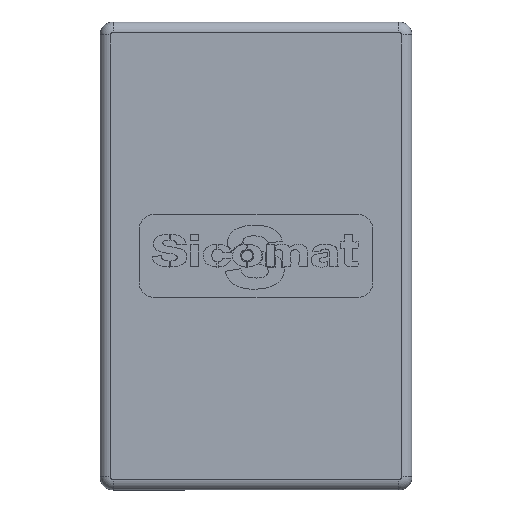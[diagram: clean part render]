
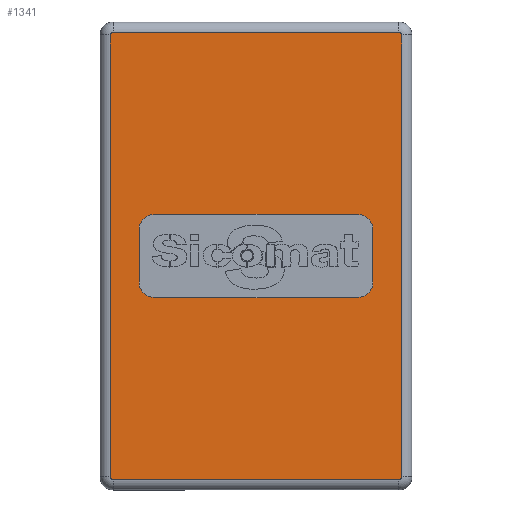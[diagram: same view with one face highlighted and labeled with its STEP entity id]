
A CAD part, top view. The second image highlights one B-rep face of the part: STEP entity #1341.
In plain terms, the highlighted planar face has unit normal (0, 0, 1).
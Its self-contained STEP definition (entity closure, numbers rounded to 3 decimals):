
#149 = EDGE_LOOP ( 'NONE', ( #4632, #4652, #4776, #4839, #4620, #4851, #4653, #4829 ) ) ;
#222 = EDGE_LOOP ( 'NONE', ( #4642, #4817, #4647, #4862, #4605, #4791, #4826, #4783 ) ) ;
#428 = FACE_OUTER_BOUND ( 'NONE', #222, .T. ) ;
#435 = FACE_BOUND ( 'NONE', #149, .T. ) ;
#860 = CIRCLE ( 'NONE', #6147, 3. ) ;
#861 = LINE ( 'NONE', #3559, #864 ) ;
#863 = LINE ( 'NONE', #3556, #867 ) ;
#864 = VECTOR ( 'NONE', #3557, 1000. ) ;
#865 = CIRCLE ( 'NONE', #6163, 3. ) ;
#866 = CIRCLE ( 'NONE', #3200, 3. ) ;
#867 = VECTOR ( 'NONE', #3558, 1000. ) ;
#868 = LINE ( 'NONE', #3480, #870 ) ;
#869 = CIRCLE ( 'NONE', #3201, 3. ) ;
#870 = VECTOR ( 'NONE', #3667, 1000. ) ;
#871 = LINE ( 'NONE', #3553, #873 ) ;
#872 = CIRCLE ( 'NONE', #3202, 0.5 ) ;
#873 = VECTOR ( 'NONE', #3554, 1000. ) ;
#874 = LINE ( 'NONE', #3549, #876 ) ;
#876 = VECTOR ( 'NONE', #3324, 1000. ) ;
#877 = LINE ( 'NONE', #3544, #879 ) ;
#878 = CIRCLE ( 'NONE', #3203, 0.5 ) ;
#879 = VECTOR ( 'NONE', #3548, 1000. ) ;
#880 = LINE ( 'NONE', #3543, #882 ) ;
#881 = CIRCLE ( 'NONE', #3199, 0.5 ) ;
#882 = VECTOR ( 'NONE', #3542, 1000. ) ;
#883 = LINE ( 'NONE', #3538, #885 ) ;
#884 = CIRCLE ( 'NONE', #3196, 0.5 ) ;
#885 = VECTOR ( 'NONE', #3537, 1000. ) ;
#1341 = ADVANCED_FACE ( 'NONE', ( #435, #428 ), #2839, .T. ) ;
#1433 = AXIS2_PLACEMENT_3D ( 'NONE', #2832, #2778, #2777 ) ;
#1865 = EDGE_CURVE ( 'NONE', #4901, #4911, #861, .T. ) ;
#1866 = EDGE_CURVE ( 'NONE', #4901, #4946, #860, .T. ) ;
#1867 = EDGE_CURVE ( 'NONE', #4896, #4946, #863, .T. ) ;
#1868 = EDGE_CURVE ( 'NONE', #4896, #4944, #865, .T. ) ;
#1869 = EDGE_CURVE ( 'NONE', #4914, #4944, #868, .T. ) ;
#1870 = EDGE_CURVE ( 'NONE', #4914, #4897, #866, .T. ) ;
#1871 = EDGE_CURVE ( 'NONE', #4950, #4897, #871, .T. ) ;
#1872 = EDGE_CURVE ( 'NONE', #4950, #4911, #869, .T. ) ;
#1873 = EDGE_CURVE ( 'NONE', #4894, #4937, #874, .T. ) ;
#1874 = EDGE_CURVE ( 'NONE', #4937, #4936, #872, .T. ) ;
#1875 = EDGE_CURVE ( 'NONE', #4936, #5006, #877, .T. ) ;
#1876 = EDGE_CURVE ( 'NONE', #5006, #5003, #878, .T. ) ;
#1877 = EDGE_CURVE ( 'NONE', #5003, #4967, #880, .T. ) ;
#1878 = EDGE_CURVE ( 'NONE', #4967, #4969, #881, .T. ) ;
#1879 = EDGE_CURVE ( 'NONE', #4969, #5005, #883, .T. ) ;
#1880 = EDGE_CURVE ( 'NONE', #5005, #4894, #884, .T. ) ;
#2777 = DIRECTION ( 'NONE',  ( 1., 0., 0. ) ) ;
#2778 = DIRECTION ( 'NONE',  ( 0., 0., 1. ) ) ;
#2832 = CARTESIAN_POINT ( 'NONE',  ( 0., 0., 2.5 ) ) ;
#2839 = PLANE ( 'NONE',  #1433 ) ;
#3196 = AXIS2_PLACEMENT_3D ( 'NONE', #3530, #3529, #3528 ) ;
#3199 = AXIS2_PLACEMENT_3D ( 'NONE', #3533, #3532, #3531 ) ;
#3200 = AXIS2_PLACEMENT_3D ( 'NONE', #3552, #3551, #3550 ) ;
#3201 = AXIS2_PLACEMENT_3D ( 'NONE', #3547, #3546, #3545 ) ;
#3202 = AXIS2_PLACEMENT_3D ( 'NONE', #3541, #3540, #3539 ) ;
#3203 = AXIS2_PLACEMENT_3D ( 'NONE', #3536, #3535, #3534 ) ;
#3324 = DIRECTION ( 'NONE',  ( 0., -1., 0. ) ) ;
#3462 = DIRECTION ( 'NONE',  ( 1., 0., 0. ) ) ;
#3463 = DIRECTION ( 'NONE',  ( 0., 0., -1. ) ) ;
#3464 = CARTESIAN_POINT ( 'NONE',  ( 19.5, 5., 2.5 ) ) ;
#3480 = CARTESIAN_POINT ( 'NONE',  ( 22.5, -8., 2.5 ) ) ;
#3488 = DIRECTION ( 'NONE',  ( 1., 0., 0. ) ) ;
#3491 = DIRECTION ( 'NONE',  ( 0., 0., -1. ) ) ;
#3528 = DIRECTION ( 'NONE',  ( 1., 0., 0. ) ) ;
#3529 = DIRECTION ( 'NONE',  ( 0., 0., 1. ) ) ;
#3530 = CARTESIAN_POINT ( 'NONE',  ( -27.5, 42.5, 2.5 ) ) ;
#3531 = DIRECTION ( 'NONE',  ( 1., 0., 0. ) ) ;
#3532 = DIRECTION ( 'NONE',  ( 0., 0., 1. ) ) ;
#3533 = CARTESIAN_POINT ( 'NONE',  ( 27.5, 42.5, 2.5 ) ) ;
#3534 = DIRECTION ( 'NONE',  ( 1., 0., 0. ) ) ;
#3535 = DIRECTION ( 'NONE',  ( 0., 0., 1. ) ) ;
#3536 = CARTESIAN_POINT ( 'NONE',  ( 27.5, -42.5, 2.5 ) ) ;
#3537 = DIRECTION ( 'NONE',  ( -1., 0., 0. ) ) ;
#3538 = CARTESIAN_POINT ( 'NONE',  ( -27.5, 43., 2.5 ) ) ;
#3539 = DIRECTION ( 'NONE',  ( 1., 0., 0. ) ) ;
#3540 = DIRECTION ( 'NONE',  ( 0., 0., 1. ) ) ;
#3541 = CARTESIAN_POINT ( 'NONE',  ( -27.5, -42.5, 2.5 ) ) ;
#3542 = DIRECTION ( 'NONE',  ( 0., 1., 0. ) ) ;
#3543 = CARTESIAN_POINT ( 'NONE',  ( 28., 42.5, 2.5 ) ) ;
#3544 = CARTESIAN_POINT ( 'NONE',  ( 27.5, -43., 2.5 ) ) ;
#3545 = DIRECTION ( 'NONE',  ( 1., 0., 0. ) ) ;
#3546 = DIRECTION ( 'NONE',  ( 0., 0., -1. ) ) ;
#3547 = CARTESIAN_POINT ( 'NONE',  ( -19.5, -5., 2.5 ) ) ;
#3548 = DIRECTION ( 'NONE',  ( 1., 0., 0. ) ) ;
#3549 = CARTESIAN_POINT ( 'NONE',  ( -28., -42.5, 2.5 ) ) ;
#3550 = DIRECTION ( 'NONE',  ( 1., 0., 0. ) ) ;
#3551 = DIRECTION ( 'NONE',  ( 0., 0., -1. ) ) ;
#3552 = CARTESIAN_POINT ( 'NONE',  ( 19.5, -5., 2.5 ) ) ;
#3553 = CARTESIAN_POINT ( 'NONE',  ( 22.5, -8., 2.5 ) ) ;
#3554 = DIRECTION ( 'NONE',  ( 1., 0., 0. ) ) ;
#3555 = CARTESIAN_POINT ( 'NONE',  ( -19.5, 5., 2.5 ) ) ;
#3556 = CARTESIAN_POINT ( 'NONE',  ( 22.5, 8., 2.5 ) ) ;
#3557 = DIRECTION ( 'NONE',  ( 0., -1., 0. ) ) ;
#3558 = DIRECTION ( 'NONE',  ( -1., 0., 0. ) ) ;
#3559 = CARTESIAN_POINT ( 'NONE',  ( -22.5, -8., 2.5 ) ) ;
#3667 = DIRECTION ( 'NONE',  ( 0., 1., 0. ) ) ;
#4605 = ORIENTED_EDGE ( 'NONE', *, *, #1877, .T. ) ;
#4620 = ORIENTED_EDGE ( 'NONE', *, *, #1869, .F. ) ;
#4632 = ORIENTED_EDGE ( 'NONE', *, *, #1865, .F. ) ;
#4642 = ORIENTED_EDGE ( 'NONE', *, *, #1873, .T. ) ;
#4647 = ORIENTED_EDGE ( 'NONE', *, *, #1875, .T. ) ;
#4652 = ORIENTED_EDGE ( 'NONE', *, *, #1866, .T. ) ;
#4653 = ORIENTED_EDGE ( 'NONE', *, *, #1871, .F. ) ;
#4776 = ORIENTED_EDGE ( 'NONE', *, *, #1867, .F. ) ;
#4783 = ORIENTED_EDGE ( 'NONE', *, *, #1880, .T. ) ;
#4791 = ORIENTED_EDGE ( 'NONE', *, *, #1878, .T. ) ;
#4817 = ORIENTED_EDGE ( 'NONE', *, *, #1874, .T. ) ;
#4826 = ORIENTED_EDGE ( 'NONE', *, *, #1879, .T. ) ;
#4829 = ORIENTED_EDGE ( 'NONE', *, *, #1872, .T. ) ;
#4839 = ORIENTED_EDGE ( 'NONE', *, *, #1868, .T. ) ;
#4851 = ORIENTED_EDGE ( 'NONE', *, *, #1870, .T. ) ;
#4862 = ORIENTED_EDGE ( 'NONE', *, *, #1876, .T. ) ;
#4894 = VERTEX_POINT ( 'NONE', #6465 ) ;
#4896 = VERTEX_POINT ( 'NONE', #6665 ) ;
#4897 = VERTEX_POINT ( 'NONE', #6579 ) ;
#4901 = VERTEX_POINT ( 'NONE', #6462 ) ;
#4911 = VERTEX_POINT ( 'NONE', #6619 ) ;
#4914 = VERTEX_POINT ( 'NONE', #6621 ) ;
#4936 = VERTEX_POINT ( 'NONE', #6391 ) ;
#4937 = VERTEX_POINT ( 'NONE', #6399 ) ;
#4944 = VERTEX_POINT ( 'NONE', #6409 ) ;
#4946 = VERTEX_POINT ( 'NONE', #6660 ) ;
#4950 = VERTEX_POINT ( 'NONE', #6642 ) ;
#4967 = VERTEX_POINT ( 'NONE', #6544 ) ;
#4969 = VERTEX_POINT ( 'NONE', #6580 ) ;
#5003 = VERTEX_POINT ( 'NONE', #6551 ) ;
#5005 = VERTEX_POINT ( 'NONE', #6657 ) ;
#5006 = VERTEX_POINT ( 'NONE', #6423 ) ;
#6147 = AXIS2_PLACEMENT_3D ( 'NONE', #3555, #3491, #3488 ) ;
#6163 = AXIS2_PLACEMENT_3D ( 'NONE', #3464, #3463, #3462 ) ;
#6391 = CARTESIAN_POINT ( 'NONE',  ( -27.5, -43., 2.5 ) ) ;
#6399 = CARTESIAN_POINT ( 'NONE',  ( -28., -42.5, 2.5 ) ) ;
#6409 = CARTESIAN_POINT ( 'NONE',  ( 22.5, 5., 2.5 ) ) ;
#6423 = CARTESIAN_POINT ( 'NONE',  ( 27.5, -43., 2.5 ) ) ;
#6462 = CARTESIAN_POINT ( 'NONE',  ( -22.5, 5., 2.5 ) ) ;
#6465 = CARTESIAN_POINT ( 'NONE',  ( -28., 42.5, 2.5 ) ) ;
#6544 = CARTESIAN_POINT ( 'NONE',  ( 28., 42.5, 2.5 ) ) ;
#6551 = CARTESIAN_POINT ( 'NONE',  ( 28., -42.5, 2.5 ) ) ;
#6579 = CARTESIAN_POINT ( 'NONE',  ( 19.5, -8., 2.5 ) ) ;
#6580 = CARTESIAN_POINT ( 'NONE',  ( 27.5, 43., 2.5 ) ) ;
#6619 = CARTESIAN_POINT ( 'NONE',  ( -22.5, -5., 2.5 ) ) ;
#6621 = CARTESIAN_POINT ( 'NONE',  ( 22.5, -5., 2.5 ) ) ;
#6642 = CARTESIAN_POINT ( 'NONE',  ( -19.5, -8., 2.5 ) ) ;
#6657 = CARTESIAN_POINT ( 'NONE',  ( -27.5, 43., 2.5 ) ) ;
#6660 = CARTESIAN_POINT ( 'NONE',  ( -19.5, 8., 2.5 ) ) ;
#6665 = CARTESIAN_POINT ( 'NONE',  ( 19.5, 8., 2.5 ) ) ;
